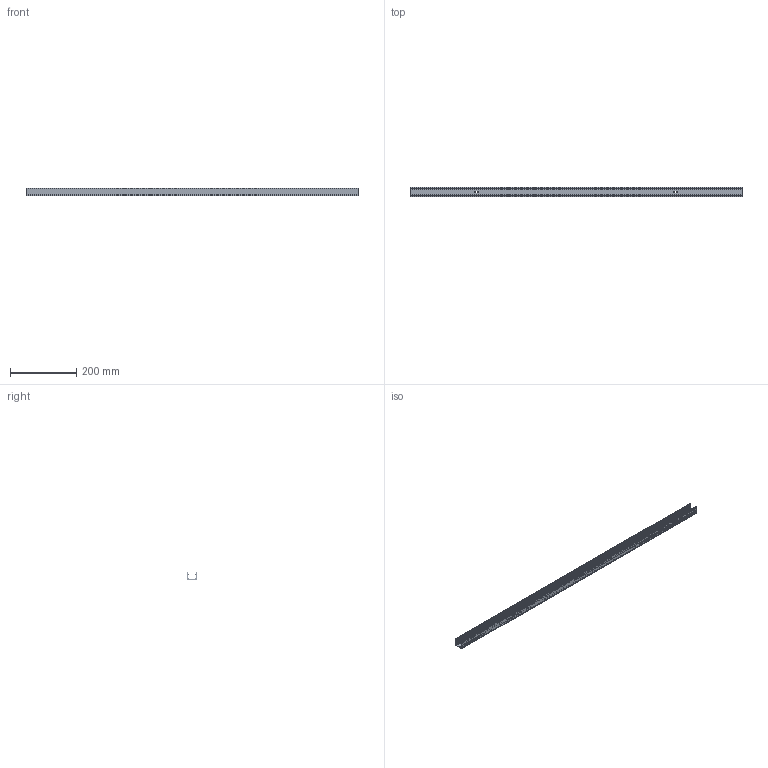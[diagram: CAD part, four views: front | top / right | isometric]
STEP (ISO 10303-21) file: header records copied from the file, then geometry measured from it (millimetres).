
FILE_DESCRIPTION(/* description */ (''),/* implementation_level */ '2;1');
FILE_NAME(/* name */ 'NF_2219_STRAIGHT_PROFILE_L1000_R02.step',/* time_stamp */ '2026-07-16T18:31:28+02:00',/* author */ (''),/* organization */ (''),/* preprocessor_version */ 'ST-DEVELOPER v20.1',/* originating_system */ 'Autodesk Translation Framework v15.8.0.0',/* authorisation */ '');
FILE_SCHEMA (('AUTOMOTIVE_DESIGN { 1 0 10303 214 3 1 1 }'));
Length unit declared in the file: millimetre
Products named in the file (1): 2026-07-16-17-53-45-734
Bounding box: 1000 x 27.69 x 23.28 mm (x, y, z)
Volume: 142532.3 mm3; surface area: 249092.1 mm2
Topology: 3 solids, 3 shells, 92 faces, 258 edges, 172 vertices
Faces by surface type: plane 64, cylinder 14, bspline 14
Entity records: 3983 total; most frequent: CARTESIAN_POINT 1641, ORIENTED_EDGE 516, DIRECTION 416, EDGE_CURVE 258, LINE 202, VECTOR 202, VERTEX_POINT 172, AXIS2_PLACEMENT_3D 107
